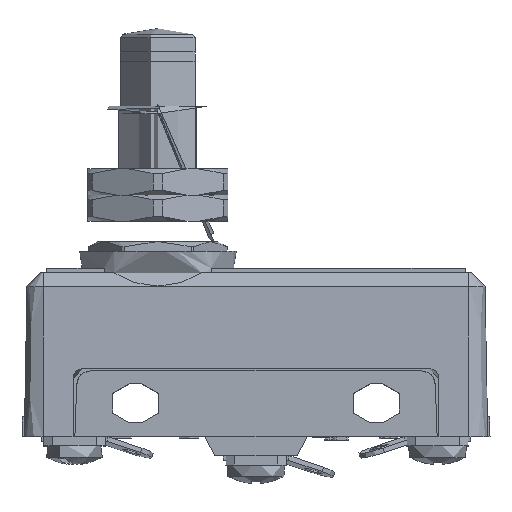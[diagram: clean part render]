
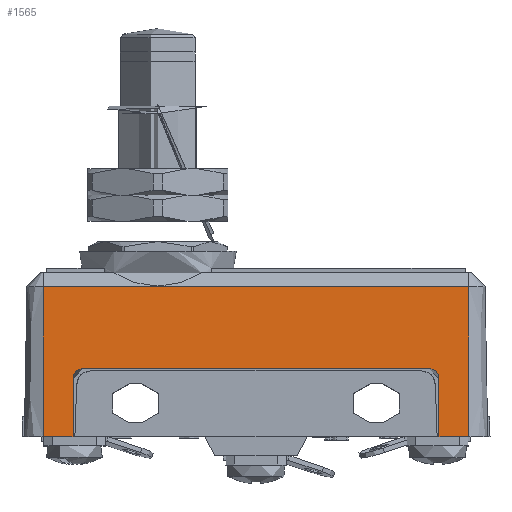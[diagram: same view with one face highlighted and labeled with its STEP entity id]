
A CAD part, top view. The second image highlights one B-rep face of the part: STEP entity #1565.
In plain terms, the highlighted planar face has unit normal (0, 0.018, 1).
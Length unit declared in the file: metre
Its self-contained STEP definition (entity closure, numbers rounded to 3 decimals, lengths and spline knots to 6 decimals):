
#496=CARTESIAN_POINT('',(-0.029979,0.005822,0.057771));
#497=VERTEX_POINT('',#496);
#500=CARTESIAN_POINT('',(0.015521,0.005822,0.057771));
#501=DIRECTION('',(-1.,0.,0.));
#502=VECTOR('',#501,1.);
#503=LINE('',#500,#502);
#504=CARTESIAN_POINT('',(0.015521,0.005822,0.057771));
#505=VERTEX_POINT('',#504);
#506=EDGE_CURVE('',#505,#497,#503,.T.);
#1074=CARTESIAN_POINT('',(0.015521,-0.010178,0.05805));
#1075=VERTEX_POINT('',#1074);
#1085=CARTESIAN_POINT('',(0.015521,-0.010178,0.05805));
#1086=DIRECTION('',(0.,-1.,0.017));
#1087=VECTOR('',#1086,1.);
#1088=LINE('',#1085,#1087);
#1089=EDGE_CURVE('',#505,#1075,#1088,.T.);
#1369=CARTESIAN_POINT('',(-0.026779,-0.003927,0.057941));
#1370=VERTEX_POINT('',#1369);
#1373=CARTESIAN_POINT('',(-0.026779,-0.010025,0.058047));
#1374=DIRECTION('',(0.,-1.,0.017));
#1375=VECTOR('',#1374,1.);
#1376=LINE('',#1373,#1375);
#1377=CARTESIAN_POINT('',(-0.026779,-0.010178,0.05805));
#1378=VERTEX_POINT('',#1377);
#1379=EDGE_CURVE('',#1370,#1378,#1376,.T.);
#1411=CARTESIAN_POINT('',(-0.025779,-0.002927,0.057923));
#1412=VERTEX_POINT('',#1411);
#1415=CARTESIAN_POINT('',(-0.025779,-0.003927,0.057941));
#1416=DIRECTION('',(0.,0.017,1.));
#1417=DIRECTION('',(1.,0.,0.));
#1418=AXIS2_PLACEMENT_3D('',#1415,#1416,#1417);
#1419=ELLIPSE('',#1418,0.001,0.001);
#1420=EDGE_CURVE('',#1412,#1370,#1419,.T.);
#1444=CARTESIAN_POINT('',(0.011321,-0.002927,0.057923));
#1445=VERTEX_POINT('',#1444);
#1448=CARTESIAN_POINT('',(0.011321,-0.002927,0.057923));
#1449=DIRECTION('',(-1.,0.,0.));
#1450=VECTOR('',#1449,1.);
#1451=LINE('',#1448,#1450);
#1452=EDGE_CURVE('',#1445,#1412,#1451,.T.);
#1479=CARTESIAN_POINT('',(0.012321,-0.003927,0.057941));
#1480=VERTEX_POINT('',#1479);
#1483=CARTESIAN_POINT('',(0.011321,-0.003927,0.057941));
#1484=DIRECTION('',(0.,0.017,1.));
#1485=DIRECTION('',(1.,0.,0.));
#1486=AXIS2_PLACEMENT_3D('',#1483,#1484,#1485);
#1487=ELLIPSE('',#1486,0.001,0.001);
#1488=EDGE_CURVE('',#1480,#1445,#1487,.T.);
#1512=CARTESIAN_POINT('',(0.012321,-0.010178,0.05805));
#1513=VERTEX_POINT('',#1512);
#1516=CARTESIAN_POINT('',(0.012321,-0.010025,0.058047));
#1517=DIRECTION('',(0.,1.,-0.017));
#1518=VECTOR('',#1517,1.);
#1519=LINE('',#1516,#1518);
#1520=EDGE_CURVE('',#1513,#1480,#1519,.T.);
#1535=CARTESIAN_POINT('',(-0.029979,-0.010178,0.05805));
#1536=DIRECTION('',(0.,0.017,1.));
#1537=DIRECTION('',(0.,-1.,0.017));
#1538=AXIS2_PLACEMENT_3D('',#1535,#1536,#1537);
#1539=PLANE('',#1538);
#1540=ORIENTED_EDGE('',*,*,#1520,.F.);
#1541=CARTESIAN_POINT('',(-0.029979,-0.010178,0.05805));
#1542=DIRECTION('',(-1.,0.,0.));
#1543=VECTOR('',#1542,1.);
#1544=LINE('',#1541,#1543);
#1545=EDGE_CURVE('',#1075,#1513,#1544,.T.);
#1546=ORIENTED_EDGE('',*,*,#1545,.F.);
#1547=ORIENTED_EDGE('',*,*,#1089,.F.);
#1548=ORIENTED_EDGE('',*,*,#506,.T.);
#1549=CARTESIAN_POINT('',(-0.029979,-0.010178,0.05805));
#1550=DIRECTION('',(0.,-1.,0.017));
#1551=VECTOR('',#1550,1.);
#1552=LINE('',#1549,#1551);
#1553=CARTESIAN_POINT('',(-0.029979,-0.010178,0.05805));
#1554=VERTEX_POINT('',#1553);
#1555=EDGE_CURVE('',#497,#1554,#1552,.T.);
#1556=ORIENTED_EDGE('',*,*,#1555,.T.);
#1557=EDGE_CURVE('',#1378,#1554,#1544,.T.);
#1558=ORIENTED_EDGE('',*,*,#1557,.F.);
#1559=ORIENTED_EDGE('',*,*,#1379,.F.);
#1560=ORIENTED_EDGE('',*,*,#1420,.F.);
#1561=ORIENTED_EDGE('',*,*,#1452,.F.);
#1562=ORIENTED_EDGE('',*,*,#1488,.F.);
#1563=EDGE_LOOP('',(#1540,#1546,#1547,#1548,#1556,#1558,#1559,#1560,#1561,#1562));
#1564=FACE_BOUND('',#1563,.T.);
#1565=ADVANCED_FACE('',(#1564),#1539,.T.);
